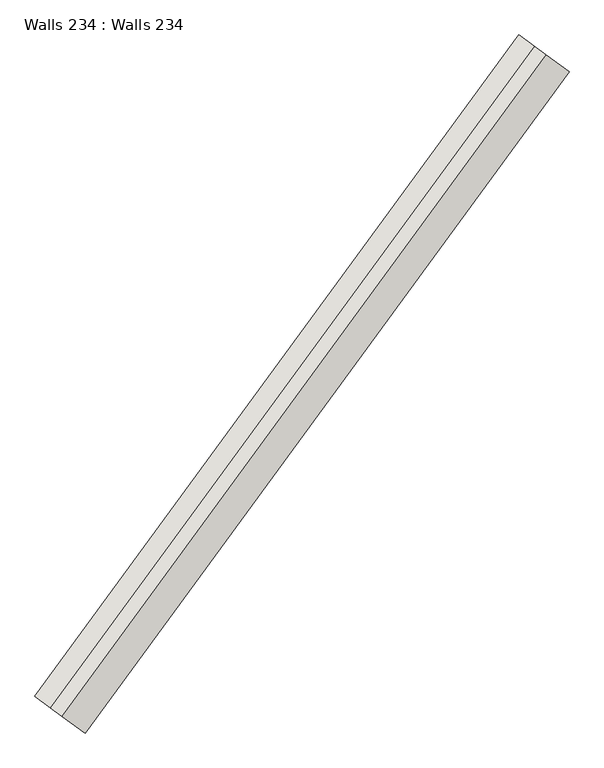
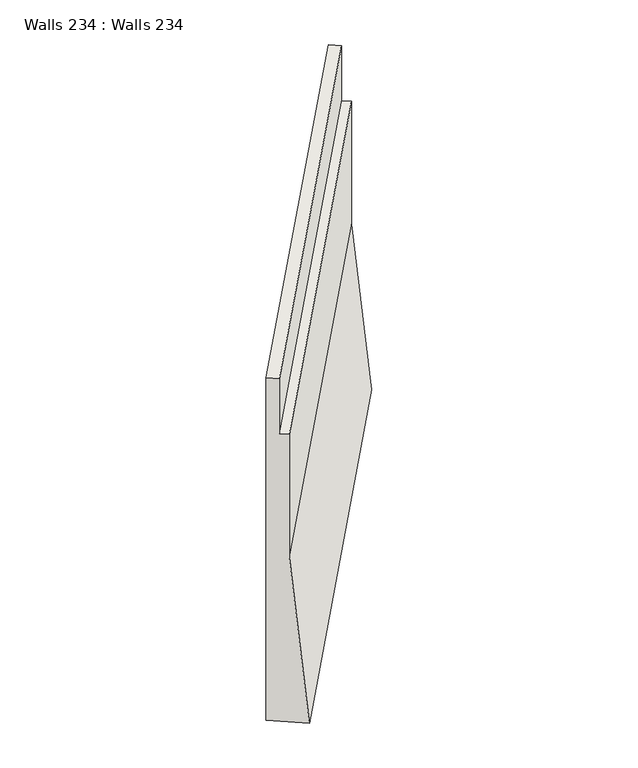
"""IFC4 building model written with IfcOpenShell, lengths in millimetres: wall geometry, Walls 234 : Walls 234."""

from ifc_helpers import new_model, si_unit, origin, place, context, project, spatial, faceted_brep, source, transform, mapped, element, save


def walls_234_walls_234_c0796b68(model_context):
    return source(origin(), model_context, "Body", "Brep", [
        faceted_brep([(448141.2682224, 333960.9457002, 646835.8), (447899.2577324, 334138.2333837, 649835.8), (447899.2577324, 334138.2333837, 652079.2), (447778.2524874, 334226.8772254, 652079.2), (447778.2524874, 334226.8772254, 653079.2), (447616.9121607, 334345.0690144, 653079.2), (447616.9121607, 334345.0690144, 646835.8), (453205.7863802, 340874.3786991, 646948.0), (452681.4303184, 341258.5020133, 646948.0), (452681.4303184, 341258.5020133, 653186.5), (452842.7706451, 341140.3102243, 653186.5), (452842.7706451, 341140.3102243, 652186.5), (452963.7758901, 341051.6663826, 652186.5), (452963.7758901, 341051.6663826, 649948.0)], [[[0, 1, 2, 3, 4, 5, 6]], [[7, 8, 9, 10, 11, 12, 13]], [[7, 13, 1, 0]], [[13, 12, 2, 1]], [[12, 11, 3, 2]], [[11, 10, 4, 3]], [[10, 9, 5, 4]], [[9, 8, 6, 5]], [[8, 7, 0, 6]]]),
    ])


if __name__ == "__main__":
    model = new_model("IFC4")
    model_context = context("Model", 3, world=origin())
    ifc_project = project(units=[si_unit("LENGTHUNIT", "METRE", prefix="MILLI")], contexts=[model_context])
    site = spatial("IfcSite", under=ifc_project)
    building = spatial("IfcBuilding", under=site)
    placement = place(None, origin())
    walls_234_walls_234_shape = walls_234_walls_234_c0796b68(model_context)
    element("IfcWall", 1, ObjectType="Walls 234 : Walls 234", at=placement, inside=building, context=model_context, shape_type="MappedRepresentation", body=[
        mapped(walls_234_walls_234_shape, transform((0.0, 0.0, 0.0), x_axis=(1.0, 0.0, 0.0), y_axis=(0.0, 1.0, 0.0), z_axis=(0.0, 0.0, 1.0))),
    ])
    save(model, "model.ifc")
